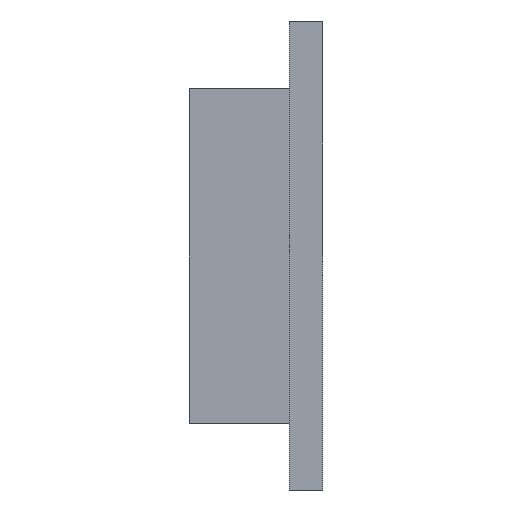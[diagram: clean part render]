
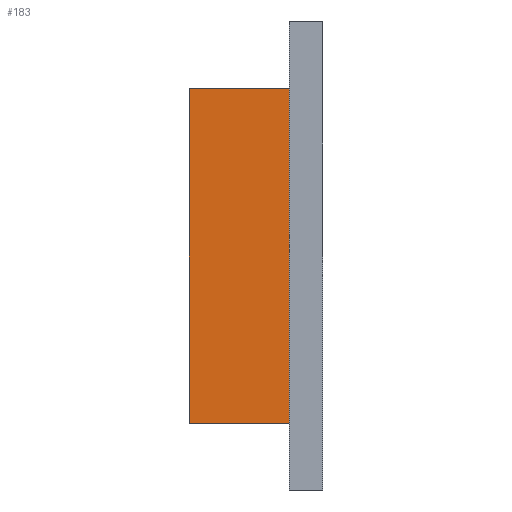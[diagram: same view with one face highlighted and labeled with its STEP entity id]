
A CAD part, left-side view. The second image highlights one B-rep face of the part: STEP entity #183.
In plain terms, the highlighted planar face has unit normal (-1, 0, 0).
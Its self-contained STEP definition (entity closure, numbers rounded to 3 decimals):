
#24 = CARTESIAN_POINT ( 'NONE',  ( -40., -5., 0. ) ) ;
#108 = AXIS2_PLACEMENT_3D ( 'NONE', #1057, #2410, #1449 ) ;
#110 = LINE ( 'NONE', #1188, #763 ) ;
#183 = ADVANCED_FACE ( 'NONE', ( #2183 ), #2428, .T. ) ;
#214 = CARTESIAN_POINT ( 'NONE',  ( -40., -5., 10. ) ) ;
#231 = CARTESIAN_POINT ( 'NONE',  ( -40., 10., 0. ) ) ;
#237 = ORIENTED_EDGE ( 'NONE', *, *, #772, .F. ) ;
#260 = DIRECTION ( 'NONE',  ( 0., -1., 0. ) ) ;
#455 = VERTEX_POINT ( 'NONE', #1955 ) ;
#464 = LINE ( 'NONE', #231, #1645 ) ;
#514 = CARTESIAN_POINT ( 'NONE',  ( -40., 10., -50. ) ) ;
#639 = ORIENTED_EDGE ( 'NONE', *, *, #1373, .F. ) ;
#763 = VECTOR ( 'NONE', #260, 1000. ) ;
#772 = EDGE_CURVE ( 'NONE', #1590, #455, #2043, .T. ) ;
#786 = DIRECTION ( 'NONE',  ( 0., 0., 1. ) ) ;
#847 = LINE ( 'NONE', #214, #1135 ) ;
#1018 = VECTOR ( 'NONE', #786, 1000. ) ;
#1057 = CARTESIAN_POINT ( 'NONE',  ( -40., 10., -50. ) ) ;
#1135 = VECTOR ( 'NONE', #1531, 1000. ) ;
#1188 = CARTESIAN_POINT ( 'NONE',  ( -40., 10., -50. ) ) ;
#1373 = EDGE_CURVE ( 'NONE', #455, #1776, #464, .T. ) ;
#1449 = DIRECTION ( 'NONE',  ( 0., 0., 1. ) ) ;
#1489 = EDGE_CURVE ( 'NONE', #1590, #2175, #110, .T. ) ;
#1531 = DIRECTION ( 'NONE',  ( 0., 0., -1. ) ) ;
#1557 = CARTESIAN_POINT ( 'NONE',  ( -40., 10., -50. ) ) ;
#1590 = VERTEX_POINT ( 'NONE', #514 ) ;
#1645 = VECTOR ( 'NONE', #1711, 1000. ) ;
#1711 = DIRECTION ( 'NONE',  ( 0., -1., 0. ) ) ;
#1776 = VERTEX_POINT ( 'NONE', #24 ) ;
#1842 = EDGE_CURVE ( 'NONE', #1776, #2175, #847, .T. ) ;
#1955 = CARTESIAN_POINT ( 'NONE',  ( -40., 10., 0. ) ) ;
#2043 = LINE ( 'NONE', #1557, #1018 ) ;
#2175 = VERTEX_POINT ( 'NONE', #2227 ) ;
#2183 = FACE_OUTER_BOUND ( 'NONE', #2358, .T. ) ;
#2214 = ORIENTED_EDGE ( 'NONE', *, *, #1489, .T. ) ;
#2227 = CARTESIAN_POINT ( 'NONE',  ( -40., -5., -50. ) ) ;
#2357 = ORIENTED_EDGE ( 'NONE', *, *, #1842, .F. ) ;
#2358 = EDGE_LOOP ( 'NONE', ( #2357, #639, #237, #2214 ) ) ;
#2410 = DIRECTION ( 'NONE',  ( -1., 0., 0. ) ) ;
#2428 = PLANE ( 'NONE',  #108 ) ;
